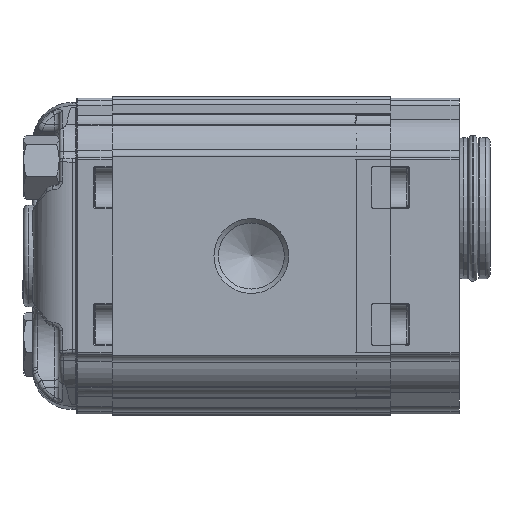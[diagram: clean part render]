
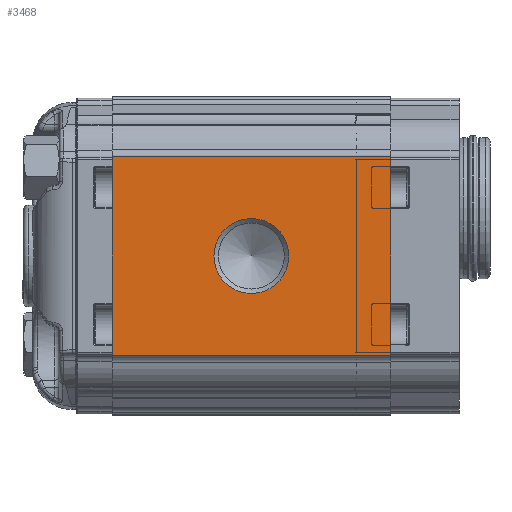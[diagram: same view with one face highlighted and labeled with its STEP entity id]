
A CAD part, left-side view. The second image highlights one B-rep face of the part: STEP entity #3468.
In plain terms, the highlighted planar face has unit normal (-1, 0, 0).
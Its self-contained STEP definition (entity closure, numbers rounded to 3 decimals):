
#3468 = ADVANCED_FACE( '', ( #8025, #8026 ), #8027, .T. );
#8025 = FACE_BOUND( '', #15420, .T. );
#8026 = FACE_OUTER_BOUND( '', #15421, .T. );
#8027 = PLANE( '', #15422 );
#15420 = EDGE_LOOP( '', ( #27740 ) );
#15421 = EDGE_LOOP( '', ( #27741, #27742, #27743, #27744 ) );
#15422 = AXIS2_PLACEMENT_3D( '', #27745, #27746, #27747 );
#27740 = ORIENTED_EDGE( '', *, *, #40765, .F. );
#27741 = ORIENTED_EDGE( '', *, *, #37457, .T. );
#27742 = ORIENTED_EDGE( '', *, *, #39709, .T. );
#27743 = ORIENTED_EDGE( '', *, *, #40766, .T. );
#27744 = ORIENTED_EDGE( '', *, *, #40767, .F. );
#27745 = CARTESIAN_POINT( '', ( -33., 133.537, 48.138 ) );
#27746 = DIRECTION( '', ( -1., 0., 0. ) );
#27747 = DIRECTION( '', ( 0., 0., 1. ) );
#37457 = EDGE_CURVE( '', #44299, #44300, #44301, .T. );
#39709 = EDGE_CURVE( '', #44300, #47952, #47954, .T. );
#40765 = EDGE_CURVE( '', #49459, #49459, #49460, .F. );
#40766 = EDGE_CURVE( '', #47952, #49461, #49462, .F. );
#40767 = EDGE_CURVE( '', #44299, #49461, #49463, .T. );
#44299 = VERTEX_POINT( '', #54434 );
#44300 = VERTEX_POINT( '', #54435 );
#44301 = LINE( '', #54436, #54437 );
#47952 = VERTEX_POINT( '', #61805 );
#47954 = LINE( '', #61807, #61808 );
#49459 = VERTEX_POINT( '', #65291 );
#49460 = CIRCLE( '', #65292, 8.475 );
#49461 = VERTEX_POINT( '', #65293 );
#49462 = LINE( '', #65294, #65295 );
#49463 = LINE( '', #65296, #65297 );
#54434 = CARTESIAN_POINT( '', ( -33., 63., -22.5 ) );
#54435 = CARTESIAN_POINT( '', ( -33., 0., -22.5 ) );
#54436 = CARTESIAN_POINT( '', ( -33., 63., -22.5 ) );
#54437 = VECTOR( '', #72008, 1000. );
#61805 = CARTESIAN_POINT( '', ( -33., 0., 22.5 ) );
#61807 = CARTESIAN_POINT( '', ( -33., 0., -21.711 ) );
#61808 = VECTOR( '', #74740, 1000. );
#65291 = CARTESIAN_POINT( '', ( -33., 31.5, -8.475 ) );
#65292 = AXIS2_PLACEMENT_3D( '', #75869, #75870, #75871 );
#65293 = CARTESIAN_POINT( '', ( -33., 63., 22.5 ) );
#65294 = CARTESIAN_POINT( '', ( -33., 63., 22.5 ) );
#65295 = VECTOR( '', #75872, 1000. );
#65296 = CARTESIAN_POINT( '', ( -33., 63., -21.711 ) );
#65297 = VECTOR( '', #75873, 1000. );
#72008 = DIRECTION( '', ( 0., -1., 0. ) );
#74740 = DIRECTION( '', ( 0., 0., 1. ) );
#75869 = CARTESIAN_POINT( '', ( -33., 31.5, 0. ) );
#75870 = DIRECTION( '', ( 1., 0., 0. ) );
#75871 = DIRECTION( '', ( 0., 0., -1. ) );
#75872 = DIRECTION( '', ( 0., -1., 0. ) );
#75873 = DIRECTION( '', ( 0., 0., 1. ) );
